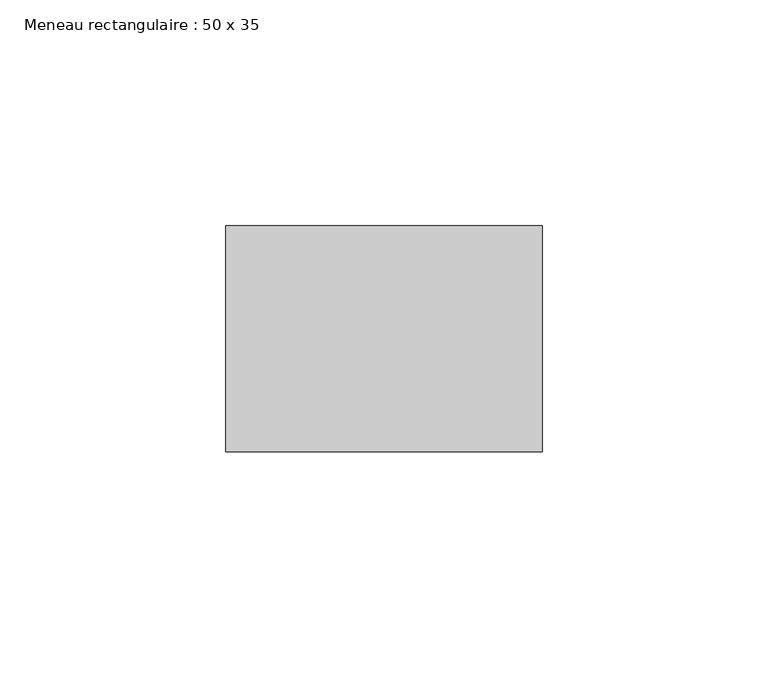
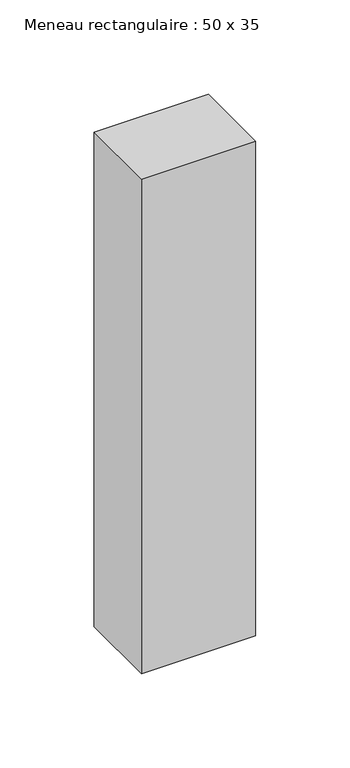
"""IFC4 building model written with IfcOpenShell, lengths in millimetres: member geometry, Meneau rectangulaire : 50 x 35."""

from ifc_helpers import new_model, si_unit, frame, origin, place, context, project, spatial, polyline, outline, extrude, source, transform, mapped, element, save


def meneau_rectangulaire_50_x_35_c9da1557(model_context):
    return source(origin(), model_context, "Body", "SweptSolid", [
        extrude(outline(polyline([(35.0, 0.0), (35.0, -50.0), (-35.0, -50.0), (-35.0, 0.0), (35.0, 0.0)])), frame((0.0, 0.0, -320.0), z_axis=(0.0, 0.0, 1.0), x_axis=(1.0, 0.0, 0.0)), (0.0, 0.0, 1.0), 320.0),
    ])


if __name__ == "__main__":
    model = new_model("IFC4")
    model_context = context("Model", 3, world=origin())
    ifc_project = project(units=[si_unit("LENGTHUNIT", "METRE", prefix="MILLI")], contexts=[model_context])
    site = spatial("IfcSite", under=ifc_project)
    building = spatial("IfcBuilding", under=site)
    placement = place(None, origin())
    meneau_rectangulaire_50_x_35_shape = meneau_rectangulaire_50_x_35_c9da1557(model_context)
    element("IfcMember", 1, ObjectType="Meneau rectangulaire : 50 x 35", at=placement, inside=building, context=model_context, shape_type="MappedRepresentation", body=[
        mapped(meneau_rectangulaire_50_x_35_shape, transform((0.0, 0.0, 0.0), x_axis=(1.0, 0.0, 0.0), y_axis=(0.0, 1.0, 0.0), z_axis=(0.0, 0.0, 1.0))),
    ])
    save(model, "model.ifc")
